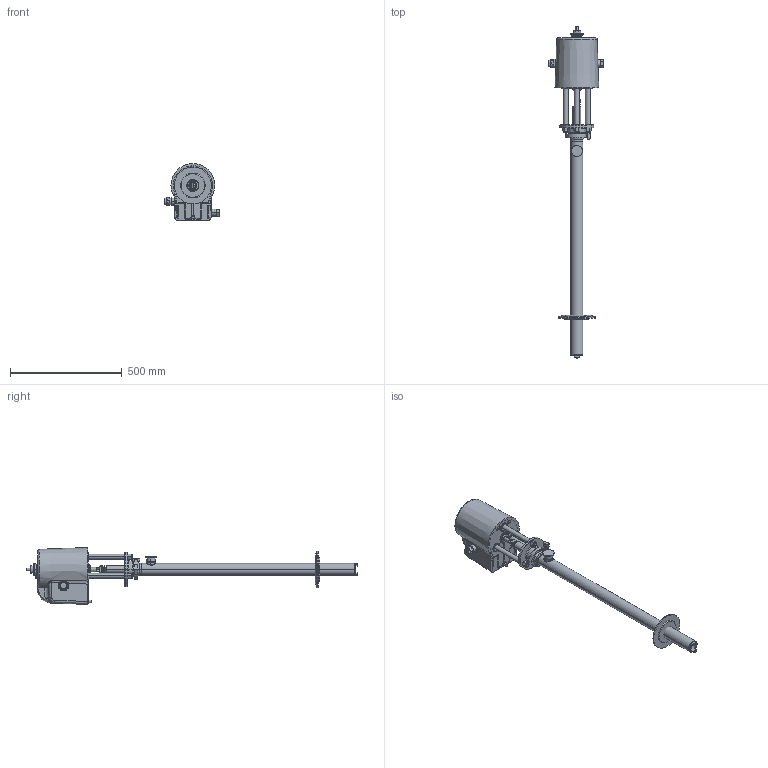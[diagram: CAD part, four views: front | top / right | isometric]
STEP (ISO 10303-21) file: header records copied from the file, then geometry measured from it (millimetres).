
FILE_DESCRIPTION((''),'2;1');
FILE_NAME('24D660-EN-V_PRT','2022-02-14T11:42:48',('qtmwp1'),(''),'CREO PARAMETRIC BY PTC INC, 2021072','CREO PARAMETRIC BY PTC INC, 2021072','');
FILE_SCHEMA(('CONFIG_CONTROL_DESIGN'));
Length unit declared in the file: inch
Products named in the file (1): 24D660-EN-V_PRT
Bounding box: 248.56 x 1484.12 x 254.14 mm (x, y, z)
Surface area: 684774.8 mm2 (no closed solid volume)
Topology: 0 solids, 81 shells, 668 faces, 2432 edges, 1723 vertices
Faces by surface type: cone 264, cylinder 193, plane 114, torus 64, bspline 31, sphere 2
Entity records: 30694 total; most frequent: CARTESIAN_POINT 11717, DIRECTION 3873, ORIENTED_EDGE 3417, EDGE_CURVE 2428, VERTEX_POINT 1723, AXIS2_PLACEMENT_3D 1489, VECTOR 895, LINE 895
